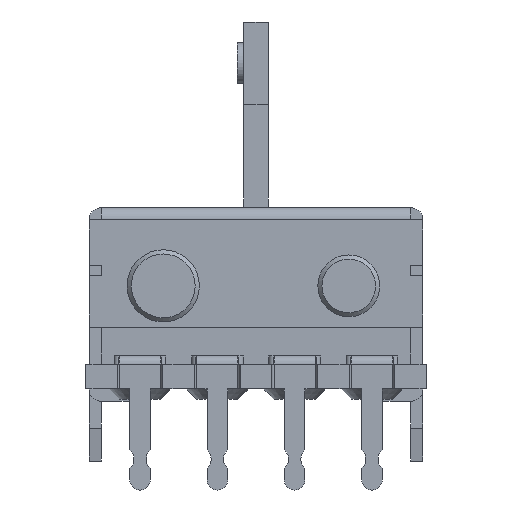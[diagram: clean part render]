
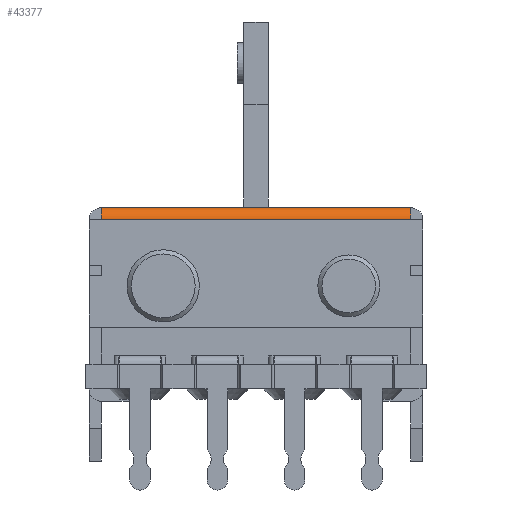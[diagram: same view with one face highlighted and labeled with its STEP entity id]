
A CAD part, left-side view. The second image highlights one B-rep face of the part: STEP entity #43377.
In plain terms, the highlighted cylindrical face has radius 0.6 mm (diameter 1.2 mm), a partial arc.
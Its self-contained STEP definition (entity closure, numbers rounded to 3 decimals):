
#12958 = PLANE('',#12959);
#12959 = AXIS2_PLACEMENT_3D('',#12960,#12961,#12962);
#12960 = CARTESIAN_POINT('',(-63.6,8.1,0.));
#12961 = DIRECTION('',(-1.,-0.,-0.));
#12962 = DIRECTION('',(0.,-1.,0.));
#29530 = VERTEX_POINT('',#29531);
#29531 = CARTESIAN_POINT('',(-63.,-7.5,0.)
  );
#29574 = PLANE('',#29575);
#29575 = AXIS2_PLACEMENT_3D('',#29576,#29577,#29578);
#29576 = CARTESIAN_POINT('',(0.,0.,0.));
#29577 = DIRECTION('',(0.,0.,1.));
#29578 = DIRECTION('',(1.,0.,0.));
#32852 = EDGE_CURVE('',#32853,#32855,#32857,.T.);
#32853 = VERTEX_POINT('',#32854);
#32854 = CARTESIAN_POINT('',(-63.6,7.5,-0.6));
#32855 = VERTEX_POINT('',#32856);
#32856 = CARTESIAN_POINT('',(-63.6,-7.5,-0.6));
#32857 = SURFACE_CURVE('',#32858,(#32862,#32869),.PCURVE_S1.);
#32858 = LINE('',#32859,#32860);
#32859 = CARTESIAN_POINT('',(-63.6,7.5,-0.6));
#32860 = VECTOR('',#32861,1.);
#32861 = DIRECTION('',(0.,-1.,0.));
#32862 = PCURVE('',#12958,#32863);
#32863 = DEFINITIONAL_REPRESENTATION('',(#32864),#32868);
#32864 = LINE('',#32865,#32866);
#32865 = CARTESIAN_POINT('',(0.6,-0.6));
#32866 = VECTOR('',#32867,1.);
#32867 = DIRECTION('',(1.,0.));
#32868 = ( GEOMETRIC_REPRESENTATION_CONTEXT(2) 
PARAMETRIC_REPRESENTATION_CONTEXT() REPRESENTATION_CONTEXT('2D SPACE',''
  ) );
#32869 = PCURVE('',#32870,#32875);
#32870 = CYLINDRICAL_SURFACE('',#32871,0.6);
#32871 = AXIS2_PLACEMENT_3D('',#32872,#32873,#32874);
#32872 = CARTESIAN_POINT('',(-63.,7.5,-0.6));
#32873 = DIRECTION('',(0.,-1.,0.));
#32874 = DIRECTION('',(0.,0.,1.));
#32875 = DEFINITIONAL_REPRESENTATION('',(#32876),#32880);
#32876 = LINE('',#32877,#32878);
#32877 = CARTESIAN_POINT('',(1.571,0.));
#32878 = VECTOR('',#32879,1.);
#32879 = DIRECTION('',(0.,1.));
#32880 = ( GEOMETRIC_REPRESENTATION_CONTEXT(2) 
PARAMETRIC_REPRESENTATION_CONTEXT() REPRESENTATION_CONTEXT('2D SPACE',''
  ) );
#33396 = PLANE('',#33397);
#33397 = AXIS2_PLACEMENT_3D('',#33398,#33399,#33400);
#33398 = CARTESIAN_POINT('',(-63.,-7.5,0.));
#33399 = DIRECTION('',(0.,1.,0.));
#33400 = DIRECTION('',(-1.,0.,0.));
#36454 = VERTEX_POINT('',#36455);
#36455 = CARTESIAN_POINT('',(-63.,7.5,0.)
  );
#36551 = PLANE('',#36552);
#36552 = AXIS2_PLACEMENT_3D('',#36553,#36554,#36555);
#36553 = CARTESIAN_POINT('',(-66.602,7.5,0.));
#36554 = DIRECTION('',(0.,-1.,0.));
#36555 = DIRECTION('',(1.,0.,0.));
#41694 = EDGE_CURVE('',#36454,#29530,#41695,.T.);
#41695 = SURFACE_CURVE('',#41696,(#41700,#41707),.PCURVE_S1.);
#41696 = LINE('',#41697,#41698);
#41697 = CARTESIAN_POINT('',(-63.,7.5,0.));
#41698 = VECTOR('',#41699,1.);
#41699 = DIRECTION('',(0.,-1.,0.));
#41700 = PCURVE('',#29574,#41701);
#41701 = DEFINITIONAL_REPRESENTATION('',(#41702),#41706);
#41702 = LINE('',#41703,#41704);
#41703 = CARTESIAN_POINT('',(-63.,7.5));
#41704 = VECTOR('',#41705,1.);
#41705 = DIRECTION('',(0.,-1.));
#41706 = ( GEOMETRIC_REPRESENTATION_CONTEXT(2) 
PARAMETRIC_REPRESENTATION_CONTEXT() REPRESENTATION_CONTEXT('2D SPACE',''
  ) );
#41707 = PCURVE('',#32870,#41708);
#41708 = DEFINITIONAL_REPRESENTATION('',(#41709),#41713);
#41709 = LINE('',#41710,#41711);
#41710 = CARTESIAN_POINT('',(0.,0.));
#41711 = VECTOR('',#41712,1.);
#41712 = DIRECTION('',(0.,1.));
#41713 = ( GEOMETRIC_REPRESENTATION_CONTEXT(2) 
PARAMETRIC_REPRESENTATION_CONTEXT() REPRESENTATION_CONTEXT('2D SPACE',''
  ) );
#43377 = ADVANCED_FACE('',(#43378),#32870,.T.);
#43378 = FACE_BOUND('',#43379,.T.);
#43379 = EDGE_LOOP('',(#43380,#43381,#43403,#43404));
#43380 = ORIENTED_EDGE('',*,*,#41694,.F.);
#43381 = ORIENTED_EDGE('',*,*,#43382,.T.);
#43382 = EDGE_CURVE('',#36454,#32853,#43383,.T.);
#43383 = SURFACE_CURVE('',#43384,(#43389,#43396),.PCURVE_S1.);
#43384 = CIRCLE('',#43385,0.6);
#43385 = AXIS2_PLACEMENT_3D('',#43386,#43387,#43388);
#43386 = CARTESIAN_POINT('',(-63.,7.5,-0.6));
#43387 = DIRECTION('',(0.,-1.,0.));
#43388 = DIRECTION('',(0.,0.,-1.));
#43389 = PCURVE('',#32870,#43390);
#43390 = DEFINITIONAL_REPRESENTATION('',(#43391),#43395);
#43391 = LINE('',#43392,#43393);
#43392 = CARTESIAN_POINT('',(-3.142,0.));
#43393 = VECTOR('',#43394,1.);
#43394 = DIRECTION('',(1.,0.));
#43395 = ( GEOMETRIC_REPRESENTATION_CONTEXT(2) 
PARAMETRIC_REPRESENTATION_CONTEXT() REPRESENTATION_CONTEXT('2D SPACE',''
  ) );
#43396 = PCURVE('',#36551,#43397);
#43397 = DEFINITIONAL_REPRESENTATION('',(#43398),#43402);
#43398 = CIRCLE('',#43399,0.6);
#43399 = AXIS2_PLACEMENT_2D('',#43400,#43401);
#43400 = CARTESIAN_POINT('',(3.602,-0.6));
#43401 = DIRECTION('',(0.,-1.));
#43402 = ( GEOMETRIC_REPRESENTATION_CONTEXT(2) 
PARAMETRIC_REPRESENTATION_CONTEXT() REPRESENTATION_CONTEXT('2D SPACE',''
  ) );
#43403 = ORIENTED_EDGE('',*,*,#32852,.T.);
#43404 = ORIENTED_EDGE('',*,*,#43405,.F.);
#43405 = EDGE_CURVE('',#29530,#32855,#43406,.T.);
#43406 = SURFACE_CURVE('',#43407,(#43412,#43419),.PCURVE_S1.);
#43407 = CIRCLE('',#43408,0.6);
#43408 = AXIS2_PLACEMENT_3D('',#43409,#43410,#43411);
#43409 = CARTESIAN_POINT('',(-63.,-7.5,-0.6));
#43410 = DIRECTION('',(0.,-1.,0.));
#43411 = DIRECTION('',(0.,0.,-1.));
#43412 = PCURVE('',#32870,#43413);
#43413 = DEFINITIONAL_REPRESENTATION('',(#43414),#43418);
#43414 = LINE('',#43415,#43416);
#43415 = CARTESIAN_POINT('',(-3.142,15.));
#43416 = VECTOR('',#43417,1.);
#43417 = DIRECTION('',(1.,0.));
#43418 = ( GEOMETRIC_REPRESENTATION_CONTEXT(2) 
PARAMETRIC_REPRESENTATION_CONTEXT() REPRESENTATION_CONTEXT('2D SPACE',''
  ) );
#43419 = PCURVE('',#33396,#43420);
#43420 = DEFINITIONAL_REPRESENTATION('',(#43421),#43429);
#43421 = ( BOUNDED_CURVE() B_SPLINE_CURVE(2,(#43422,#43423,#43424,#43425
    ,#43426,#43427,#43428),.UNSPECIFIED.,.T.,.F.) 
B_SPLINE_CURVE_WITH_KNOTS((1,2,2,2,2,1),(-2.094,0.,
    2.094,4.189,6.283,8.378),
.UNSPECIFIED.) CURVE() GEOMETRIC_REPRESENTATION_ITEM() 
RATIONAL_B_SPLINE_CURVE((1.,0.5,1.,0.5,1.,0.5,1.)) REPRESENTATION_ITEM(
  '') );
#43422 = CARTESIAN_POINT('',(0.,-1.2));
#43423 = CARTESIAN_POINT('',(-1.039,-1.2));
#43424 = CARTESIAN_POINT('',(-0.52,-0.3));
#43425 = CARTESIAN_POINT('',(0.,0.6));
#43426 = CARTESIAN_POINT('',(0.52,-0.3));
#43427 = CARTESIAN_POINT('',(1.039,-1.2));
#43428 = CARTESIAN_POINT('',(0.,-1.2));
#43429 = ( GEOMETRIC_REPRESENTATION_CONTEXT(2) 
PARAMETRIC_REPRESENTATION_CONTEXT() REPRESENTATION_CONTEXT('2D SPACE',''
  ) );
